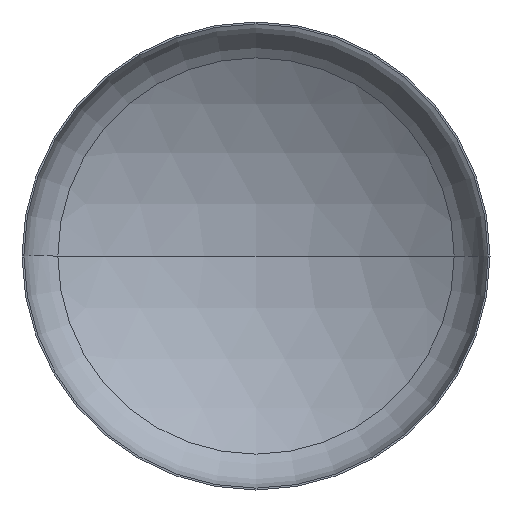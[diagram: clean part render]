
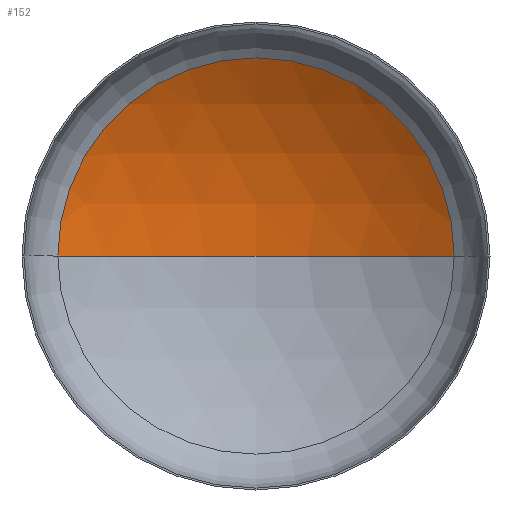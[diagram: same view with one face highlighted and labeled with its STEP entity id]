
A CAD part, front view. The second image highlights one B-rep face of the part: STEP entity #152.
In plain terms, the highlighted spherical face has radius 4800 mm.
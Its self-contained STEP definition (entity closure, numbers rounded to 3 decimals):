
#16 = DIRECTION ( 'NONE',  ( 0., 0., -1. ) ) ;
#23 = DIRECTION ( 'NONE',  ( -1., 0., 0. ) ) ;
#30 = VERTEX_POINT ( 'NONE', #264 ) ;
#33 = DIRECTION ( 'NONE',  ( -1., 0., 0. ) ) ;
#44 = EDGE_CURVE ( 'NONE', #118, #71, #98, .T. ) ;
#61 = ORIENTED_EDGE ( 'NONE', *, *, #87, .T. ) ;
#71 = VERTEX_POINT ( 'NONE', #367 ) ;
#87 = EDGE_CURVE ( 'NONE', #118, #30, #390, .T. ) ;
#98 = CIRCLE ( 'NONE', #332, 4800. ) ;
#112 = ORIENTED_EDGE ( 'NONE', *, *, #44, .F. ) ;
#118 = VERTEX_POINT ( 'NONE', #316 ) ;
#136 = CIRCLE ( 'NONE', #301, 2540.594 ) ;
#147 = AXIS2_PLACEMENT_3D ( 'NONE', #314, #309, #23 ) ;
#152 = ADVANCED_FACE ( 'NONE', ( #372 ), #234, .F. ) ;
#156 = EDGE_LOOP ( 'NONE', ( #112, #61, #400 ) ) ;
#160 = CARTESIAN_POINT ( 'NONE',  ( 0., 859.808, 0. ) ) ;
#199 = DIRECTION ( 'NONE',  ( 1., 0., 0. ) ) ;
#234 = SPHERICAL_SURFACE ( 'NONE', #147, 4800. ) ;
#245 = DIRECTION ( 'NONE',  ( 0., -1., 0. ) ) ;
#263 = EDGE_CURVE ( 'NONE', #30, #71, #136, .T. ) ;
#264 = CARTESIAN_POINT ( 'NONE',  ( 2540.594, 859.808, 0. ) ) ;
#301 = AXIS2_PLACEMENT_3D ( 'NONE', #160, #245, #199 ) ;
#309 = DIRECTION ( 'NONE',  ( 0., 0., -1. ) ) ;
#314 = CARTESIAN_POINT ( 'NONE',  ( 0., -3212.708, 0. ) ) ;
#316 = CARTESIAN_POINT ( 'NONE',  ( 0., 1587.292, 0. ) ) ;
#332 = AXIS2_PLACEMENT_3D ( 'NONE', #352, #350, #348 ) ;
#348 = DIRECTION ( 'NONE',  ( 1., 0., 0. ) ) ;
#350 = DIRECTION ( 'NONE',  ( 0., 0., 1. ) ) ;
#352 = CARTESIAN_POINT ( 'NONE',  ( 0., -3212.708, 0. ) ) ;
#364 = AXIS2_PLACEMENT_3D ( 'NONE', #374, #16, #33 ) ;
#367 = CARTESIAN_POINT ( 'NONE',  ( -2540.594, 859.808, 0. ) ) ;
#372 = FACE_OUTER_BOUND ( 'NONE', #156, .T. ) ;
#374 = CARTESIAN_POINT ( 'NONE',  ( 0., -3212.708, 0. ) ) ;
#390 = CIRCLE ( 'NONE', #364, 4800. ) ;
#400 = ORIENTED_EDGE ( 'NONE', *, *, #263, .T. ) ;
